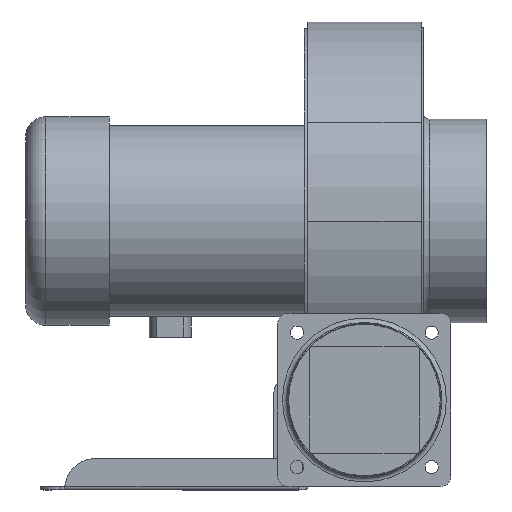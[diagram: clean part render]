
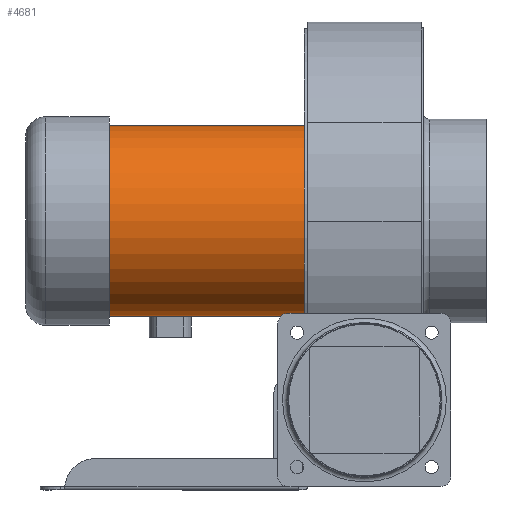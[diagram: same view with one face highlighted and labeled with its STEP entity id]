
A CAD part, front view. The second image highlights one B-rep face of the part: STEP entity #4681.
In plain terms, the highlighted cylindrical face has radius 46.8 mm (diameter 93.6 mm), a full revolution.
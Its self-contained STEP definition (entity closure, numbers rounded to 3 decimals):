
#312=CIRCLE('',#5244,46.8);
#313=CIRCLE('',#5245,46.8);
#314=CIRCLE('',#5246,46.8);
#315=CIRCLE('',#5247,46.8);
#463=CYLINDRICAL_SURFACE('',#5243,46.8);
#1429=ORIENTED_EDGE('',*,*,#2252,.F.);
#1430=ORIENTED_EDGE('',*,*,#2253,.T.);
#1431=ORIENTED_EDGE('',*,*,#2254,.F.);
#1432=ORIENTED_EDGE('',*,*,#2255,.T.);
#1433=ORIENTED_EDGE('',*,*,#2256,.T.);
#1434=ORIENTED_EDGE('',*,*,#2257,.F.);
#2252=EDGE_CURVE('',#2749,#2749,#312,.T.);
#2253=EDGE_CURVE('',#2750,#2750,#313,.T.);
#2254=EDGE_CURVE('',#2751,#2752,#3099,.T.);
#2255=EDGE_CURVE('',#2751,#2753,#314,.T.);
#2256=EDGE_CURVE('',#2753,#2754,#3100,.T.);
#2257=EDGE_CURVE('',#2752,#2754,#315,.T.);
#2749=VERTEX_POINT('',#7849);
#2750=VERTEX_POINT('',#7851);
#2751=VERTEX_POINT('',#7853);
#2752=VERTEX_POINT('',#7854);
#2753=VERTEX_POINT('',#7856);
#2754=VERTEX_POINT('',#7858);
#3099=LINE('',#7852,#3446);
#3100=LINE('',#7857,#3447);
#3446=VECTOR('',#6495,1000.);
#3447=VECTOR('',#6498,1000.);
#3851=EDGE_LOOP('',(#1429));
#3852=EDGE_LOOP('',(#1430));
#3853=EDGE_LOOP('',(#1431,#1432,#1433,#1434));
#4264=FACE_BOUND('',#3851,.T.);
#4265=FACE_BOUND('',#3852,.T.);
#4266=FACE_BOUND('',#3853,.T.);
#4681=ADVANCED_FACE('',(#4264,#4265,#4266),#463,.T.);
#5243=AXIS2_PLACEMENT_3D('',#7847,#6489,#6490);
#5244=AXIS2_PLACEMENT_3D('',#7848,#6491,#6492);
#5245=AXIS2_PLACEMENT_3D('',#7850,#6493,#6494);
#5246=AXIS2_PLACEMENT_3D('',#7855,#6496,#6497);
#5247=AXIS2_PLACEMENT_3D('',#7859,#6499,#6500);
#6489=DIRECTION('',(-1.,0.,0.));
#6490=DIRECTION('',(0.,-1.,0.));
#6491=DIRECTION('',(1.,0.,0.));
#6492=DIRECTION('',(0.,-1.,0.));
#6493=DIRECTION('',(1.,0.,0.));
#6494=DIRECTION('',(0.,-1.,0.));
#6495=DIRECTION('',(-1.,0.,0.));
#6496=DIRECTION('',(1.,0.,0.));
#6497=DIRECTION('',(0.,-1.,0.));
#6498=DIRECTION('',(-1.,0.,0.));
#6499=DIRECTION('',(1.,0.,0.));
#6500=DIRECTION('',(0.,-1.,0.));
#7847=CARTESIAN_POINT('',(0.003,0.,0.003));
#7848=CARTESIAN_POINT('',(0.003,0.,0.003));
#7849=CARTESIAN_POINT('',(0.003,-46.8,0.003));
#7850=CARTESIAN_POINT('',(-95.797,0.,0.003));
#7851=CARTESIAN_POINT('',(-95.797,-46.8,0.003));
#7852=CARTESIAN_POINT('',(-43.297,44.044,-15.821));
#7853=CARTESIAN_POINT('',(-40.797,44.044,-15.821));
#7854=CARTESIAN_POINT('',(-90.797,44.044,-15.821));
#7855=CARTESIAN_POINT('',(-40.797,0.,0.003));
#7856=CARTESIAN_POINT('',(-40.797,44.044,15.826));
#7857=CARTESIAN_POINT('',(-43.297,44.044,15.826));
#7858=CARTESIAN_POINT('',(-90.797,44.044,15.826));
#7859=CARTESIAN_POINT('',(-90.797,0.,0.003));
